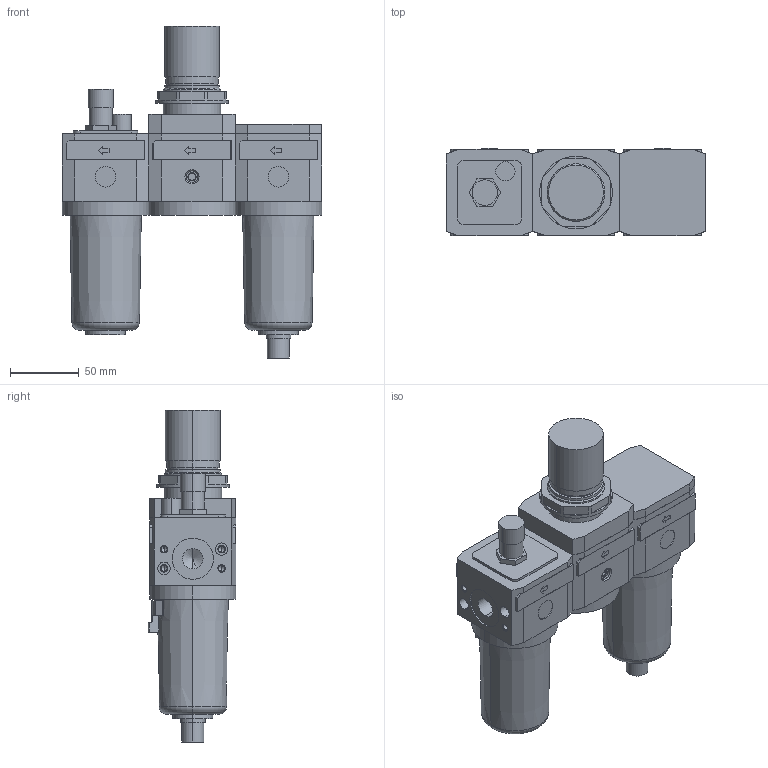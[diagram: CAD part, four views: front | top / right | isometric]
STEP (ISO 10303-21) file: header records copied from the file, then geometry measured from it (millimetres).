
FILE_DESCRIPTION((''),'2;1');
FILE_NAME('I:\DOC-EDP\Lib-3d\FRL\17307A_.stp','2003-06-16T14:59:27',('maffial1'),(''),'Autodesk Inventor 7','Autodesk Inventor 7','');
FILE_SCHEMA(('AUTOMOTIVE_DESIGN { 1 0 10303 214 1 1 1 1 }'));
Length unit declared in the file: millimetre
Products named in the file (7): 17307A_; 17301A_; 17303A; 17302A_; 17302A_(1); RS_1702_12; RK_1701_020
Assembly tree (6 placements, depth 3):
  17307A_
    17301A_
    17303A
    17302A_
      17302A_(1)
      RS_1702_12
      RK_1701_020
Bounding box: 189 x 64.18 x 242.2 mm (x, y, z)
Volume: 1165604.7 mm3; surface area: 149417.5 mm2
Topology: 5 solids, 11 shells, 563 faces, 1369 edges, 847 vertices
Faces by surface type: plane 218, bspline 207, cylinder 92, cone 38, torus 8
Entity records: 17918 total; most frequent: CARTESIAN_POINT 5181, ORIENTED_EDGE 2642, DIRECTION 2472, EDGE_CURVE 1321, VECTOR 884, LINE 884, VERTEX_POINT 847, AXIS2_PLACEMENT_3D 794
